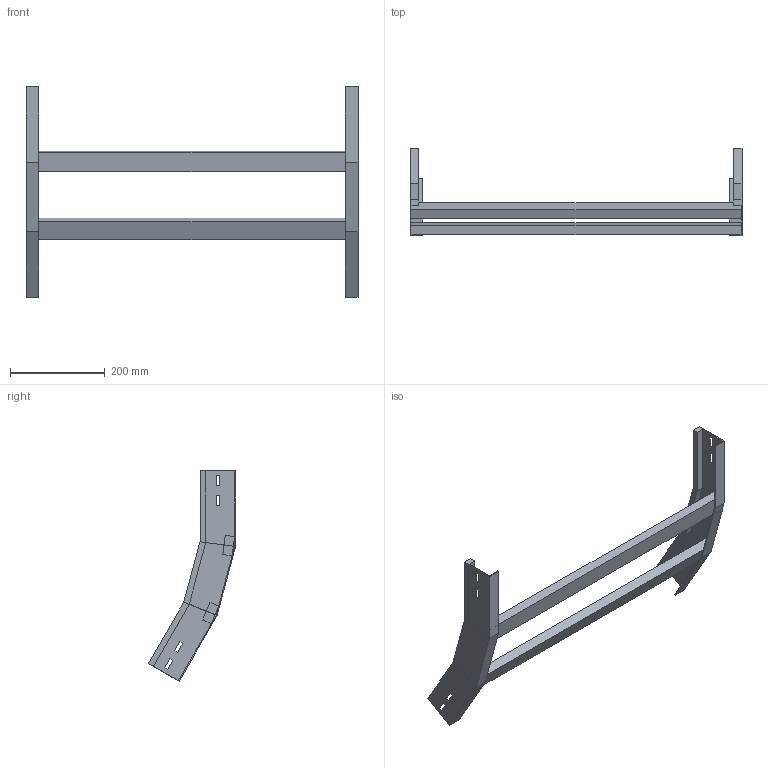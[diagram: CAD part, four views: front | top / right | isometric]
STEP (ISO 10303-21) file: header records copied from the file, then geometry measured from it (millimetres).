
FILE_DESCRIPTION (( 'STEP AP214' ), '1' );
FILE_NAME ('B2X32B5C700XX.step', '2025-03-20T10:03:34', ( '' ), ( '' ), 'SwSTEP 2.0', 'SolidWorks 2023', '' );
FILE_SCHEMA (( 'AUTOMOTIVE_DESIGN' ));
Length unit declared in the file: millimetre
Products named in the file (3): TRAVERSINO_700; B2X32B5C700XX; LONGH.SALITA_30°_H75_R500
Assembly tree (4 placements, depth 2):
  B2X32B5C700XX
    LONGH.SALITA_30°_H75_R500  x2
    TRAVERSINO_700  x2
Bounding box: 700 x 183.88 x 443.86 mm (x, y, z)
Volume: 1473919.5 mm3; surface area: 385272.3 mm2
Topology: 4 solids, 4 shells, 96 faces, 232 edges, 144 vertices
Faces by surface type: plane 96
Entity records: 1472 total; most frequent: CARTESIAN_POINT 243, ORIENTED_EDGE 232, DIRECTION 226, VECTOR 116, LINE 116, EDGE_CURVE 116, VERTEX_POINT 72, EDGE_LOOP 56
